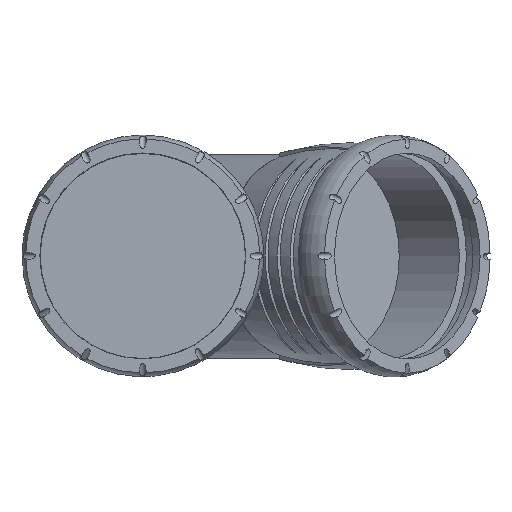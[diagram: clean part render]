
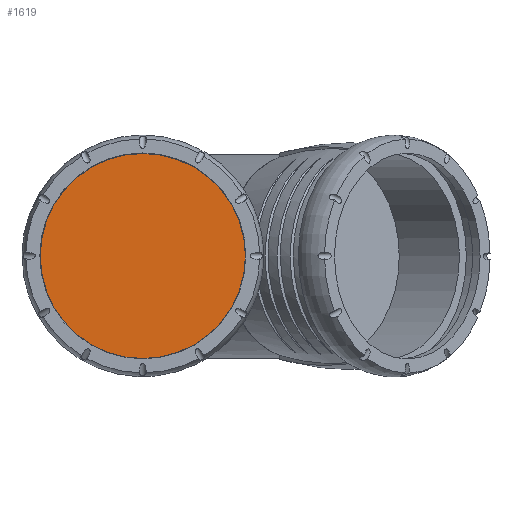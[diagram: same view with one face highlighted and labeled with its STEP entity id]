
A CAD part, top view. The second image highlights one B-rep face of the part: STEP entity #1619.
In plain terms, the highlighted planar face has unit normal (0, 0, 1).
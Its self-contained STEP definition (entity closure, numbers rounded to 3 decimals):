
#221=PLANE('',#1754);
#299=FACE_OUTER_BOUND('',#407,.T.);
#407=EDGE_LOOP('',(#1045));
#545=CIRCLE('',#1755,63.);
#622=VERTEX_POINT('',#2320);
#796=EDGE_CURVE('',#622,#622,#545,.T.);
#1045=ORIENTED_EDGE('',*,*,#796,.T.);
#1619=ADVANCED_FACE('',(#299),#221,.T.);
#1754=AXIS2_PLACEMENT_3D('',#2319,#1959,#1960);
#1755=AXIS2_PLACEMENT_3D('',#2321,#1961,#1962);
#1959=DIRECTION('center_axis',(0.,0.,
1.));
#1960=DIRECTION('ref_axis',(0.,1.,0.));
#1961=DIRECTION('center_axis',(0.,0.,
1.));
#1962=DIRECTION('ref_axis',(0.,1.,0.));
#2319=CARTESIAN_POINT('Origin',(0.,0.,
265.5));
#2320=CARTESIAN_POINT('',(-63.,0.,265.5));
#2321=CARTESIAN_POINT('Origin',(0.,0.,
265.5));
